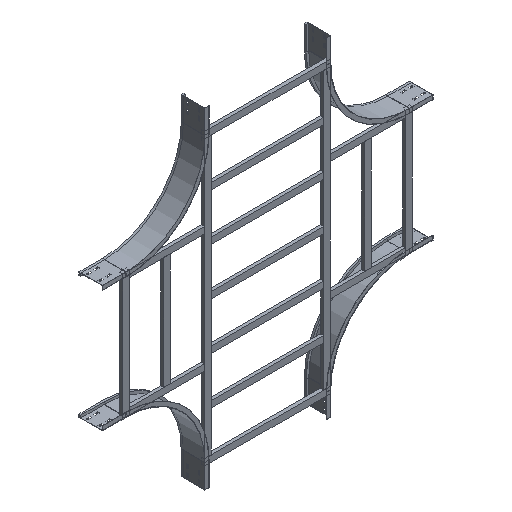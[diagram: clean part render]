
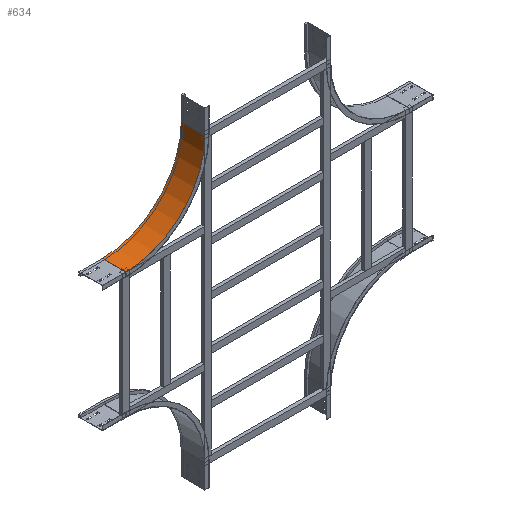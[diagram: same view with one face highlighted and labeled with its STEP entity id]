
A CAD part, isometric view. The second image highlights one B-rep face of the part: STEP entity #634.
In plain terms, the highlighted cylindrical face has radius 500 mm (diameter 1000 mm), a partial arc.
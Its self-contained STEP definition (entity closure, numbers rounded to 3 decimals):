
#77 = DIRECTION ( 'NONE',  ( 0., -1., 0. ) ) ;
#110 = DIRECTION ( 'NONE',  ( 0., 0., -1. ) ) ;
#344 = DIRECTION ( 'NONE',  ( 0., 1., 0. ) ) ;
#436 = ORIENTED_EDGE ( 'NONE', *, *, #1238, .F. ) ;
#457 = VECTOR ( 'NONE', #2896, 1000. ) ;
#498 = DIRECTION ( 'NONE',  ( -1., 0., 0. ) ) ;
#506 = EDGE_CURVE ( 'NONE', #2668, #1627, #883, .T. ) ;
#634 = ADVANCED_FACE ( 'NONE', ( #1704 ), #1729, .F. ) ;
#883 = CIRCLE ( 'NONE', #1699, 500. ) ;
#968 = CARTESIAN_POINT ( 'NONE',  ( 500., 0., -650. ) ) ;
#1081 = ORIENTED_EDGE ( 'NONE', *, *, #506, .T. ) ;
#1095 = LINE ( 'NONE', #1773, #457 ) ;
#1214 = AXIS2_PLACEMENT_3D ( 'NONE', #1717, #1491, #110 ) ;
#1238 = EDGE_CURVE ( 'NONE', #2668, #2389, #1095, .T. ) ;
#1286 = CARTESIAN_POINT ( 'NONE',  ( 500., 0., -650. ) ) ;
#1404 = DIRECTION ( 'NONE',  ( 0., -1., 0. ) ) ;
#1474 = CARTESIAN_POINT ( 'NONE',  ( 0., 150., -150. ) ) ;
#1491 = DIRECTION ( 'NONE',  ( 0., -1., 0. ) ) ;
#1503 = LINE ( 'NONE', #1286, #2678 ) ;
#1612 = CARTESIAN_POINT ( 'NONE',  ( 500., 150., -650. ) ) ;
#1627 = VERTEX_POINT ( 'NONE', #968 ) ;
#1669 = CARTESIAN_POINT ( 'NONE',  ( 0., 0., -150. ) ) ;
#1699 = AXIS2_PLACEMENT_3D ( 'NONE', #2551, #1404, #2756 ) ;
#1704 = FACE_OUTER_BOUND ( 'NONE', #1795, .T. ) ;
#1717 = CARTESIAN_POINT ( 'NONE',  ( 500., 0., -150. ) ) ;
#1729 = CYLINDRICAL_SURFACE ( 'NONE', #1214, 500. ) ;
#1773 = CARTESIAN_POINT ( 'NONE',  ( 0., 0., -150. ) ) ;
#1795 = EDGE_LOOP ( 'NONE', ( #2293, #436, #1081, #2255 ) ) ;
#2255 = ORIENTED_EDGE ( 'NONE', *, *, #2373, .T. ) ;
#2272 = EDGE_CURVE ( 'NONE', #2389, #2317, #2548, .T. ) ;
#2293 = ORIENTED_EDGE ( 'NONE', *, *, #2272, .F. ) ;
#2317 = VERTEX_POINT ( 'NONE', #1612 ) ;
#2373 = EDGE_CURVE ( 'NONE', #1627, #2317, #1503, .T. ) ;
#2389 = VERTEX_POINT ( 'NONE', #1474 ) ;
#2548 = CIRCLE ( 'NONE', #2724, 500. ) ;
#2551 = CARTESIAN_POINT ( 'NONE',  ( 500., 0., -150. ) ) ;
#2668 = VERTEX_POINT ( 'NONE', #1669 ) ;
#2678 = VECTOR ( 'NONE', #344, 1000. ) ;
#2710 = CARTESIAN_POINT ( 'NONE',  ( 500., 150., -150. ) ) ;
#2724 = AXIS2_PLACEMENT_3D ( 'NONE', #2710, #77, #498 ) ;
#2756 = DIRECTION ( 'NONE',  ( -1., 0., 0. ) ) ;
#2896 = DIRECTION ( 'NONE',  ( 0., 1., 0. ) ) ;
